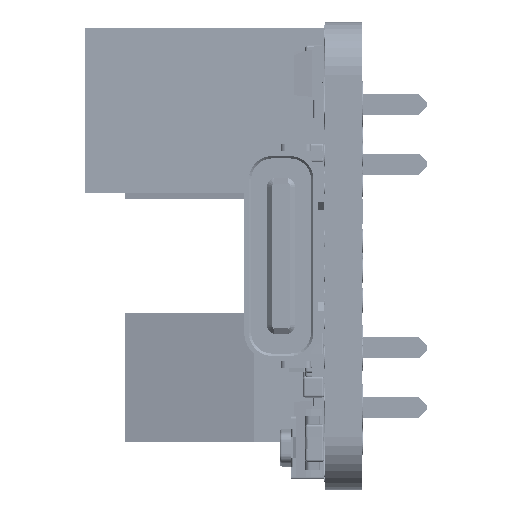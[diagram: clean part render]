
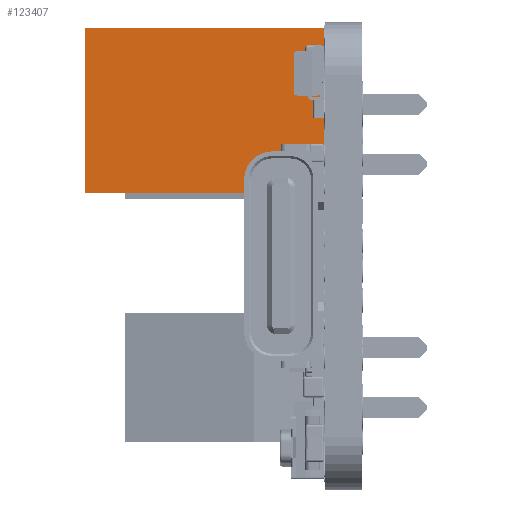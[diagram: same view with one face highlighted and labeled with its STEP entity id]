
A CAD part, left-side view. The second image highlights one B-rep face of the part: STEP entity #123407.
In plain terms, the highlighted planar face has unit normal (-1, 0, 0).
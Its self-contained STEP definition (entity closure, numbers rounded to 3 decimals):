
#43244 = VERTEX_POINT ( 'NONE', #141194 ) ;
#43343 = VERTEX_POINT ( 'NONE', #141208 ) ;
#43592 = VERTEX_POINT ( 'NONE', #141529 ) ;
#43643 = VERTEX_POINT ( 'NONE', #141552 ) ;
#117477 = AXIS2_PLACEMENT_3D ( 'NONE', #161348, #161467, #161363 ) ;
#123407 = ADVANCED_FACE ( 'NONE', ( #145198 ), #161459, .F. ) ;
#141194 = CARTESIAN_POINT ( 'NONE',  ( -9.825, 10.21, 3.525 ) ) ;
#141208 = CARTESIAN_POINT ( 'NONE',  ( -9.825, 0.01, 3.525 ) ) ;
#141529 = CARTESIAN_POINT ( 'NONE',  ( -9.825, 10.21, -3.525 ) ) ;
#141552 = CARTESIAN_POINT ( 'NONE',  ( -9.825, 0.01, -3.525 ) ) ;
#145198 = FACE_OUTER_BOUND ( 'NONE', #245049, .T. ) ;
#161348 = CARTESIAN_POINT ( 'NONE',  ( -9.825, 10.21, -3.525 ) ) ;
#161363 = DIRECTION ( 'NONE',  ( 0., 0., -1. ) ) ;
#161459 = PLANE ( 'NONE',  #117477 ) ;
#161467 = DIRECTION ( 'NONE',  ( 1., 0., 0. ) ) ;
#193892 = EDGE_CURVE ( 'NONE', #43244, #43343, #221525, .T. ) ;
#194198 = EDGE_CURVE ( 'NONE', #43592, #43244, #221825, .T. ) ;
#194254 = EDGE_CURVE ( 'NONE', #43343, #43643, #217889, .T. ) ;
#194398 = EDGE_CURVE ( 'NONE', #43592, #43643, #252496, .T. ) ;
#217797 = VECTOR ( 'NONE', #251454, 1000. ) ;
#217889 = LINE ( 'NONE', #251469, #217797 ) ;
#221525 = LINE ( 'NONE', #249935, #221562 ) ;
#221562 = VECTOR ( 'NONE', #249972, 1000. ) ;
#221825 = LINE ( 'NONE', #251368, #221898 ) ;
#221898 = VECTOR ( 'NONE', #251392, 1000. ) ;
#245049 = EDGE_LOOP ( 'NONE', ( #249971, #250028, #250056, #250145 ) ) ;
#249935 = CARTESIAN_POINT ( 'NONE',  ( -9.825, 10.21, 3.525 ) ) ;
#249971 = ORIENTED_EDGE ( 'NONE', *, *, #194398, .T. ) ;
#249972 = DIRECTION ( 'NONE',  ( 0., -1., 0. ) ) ;
#250028 = ORIENTED_EDGE ( 'NONE', *, *, #194254, .F. ) ;
#250056 = ORIENTED_EDGE ( 'NONE', *, *, #193892, .F. ) ;
#250145 = ORIENTED_EDGE ( 'NONE', *, *, #194198, .F. ) ;
#251368 = CARTESIAN_POINT ( 'NONE',  ( -9.825, 10.21, -3.525 ) ) ;
#251392 = DIRECTION ( 'NONE',  ( 0., 0., 1. ) ) ;
#251454 = DIRECTION ( 'NONE',  ( 0., 0., -1. ) ) ;
#251469 = CARTESIAN_POINT ( 'NONE',  ( -9.825, 0.01, 3.525 ) ) ;
#251920 = CARTESIAN_POINT ( 'NONE',  ( -9.825, 10.21, -3.525 ) ) ;
#251927 = DIRECTION ( 'NONE',  ( 0., -1., 0. ) ) ;
#252443 = VECTOR ( 'NONE', #251927, 1000. ) ;
#252496 = LINE ( 'NONE', #251920, #252443 ) ;
